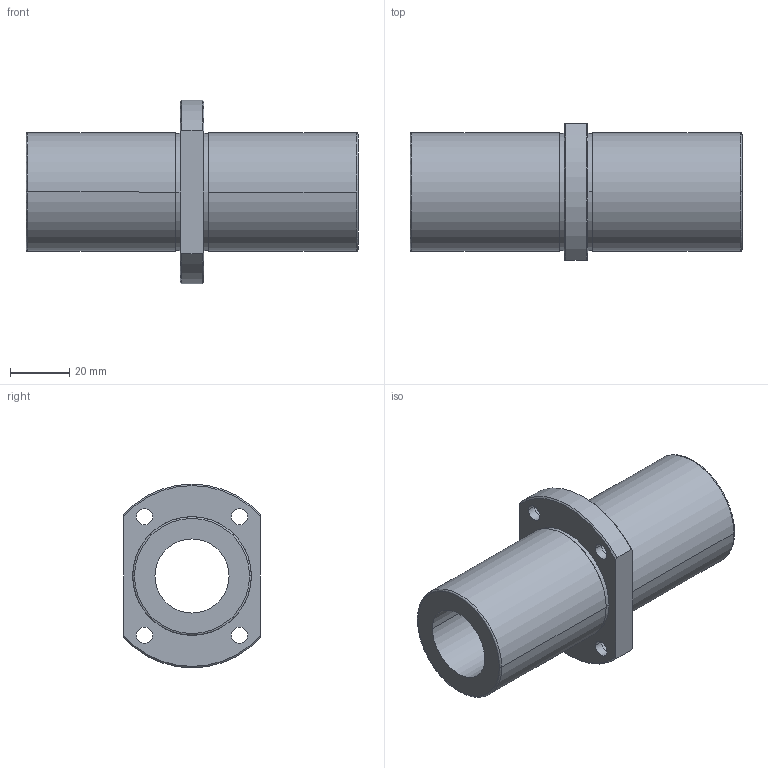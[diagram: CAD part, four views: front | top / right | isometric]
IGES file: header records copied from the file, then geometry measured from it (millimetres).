
Start section: 3D InterOp IGES (Version 21 0 1), Spatial Corp. Copyright (c) 1999-2007.
Global section: file name: NFCO-25VLUU.igs; native system: Spatial Corp.; preprocessor: 3D InterOp GENERIC/IGES 3.0; author: Noname; organization: Noname; date: 20220308.143426; units: millimetre
Bounding box: 112 x 46 x 62 mm (x, y, z)
Surface area: 28083.6 mm2 (no closed solid volume)
Topology: 0 solids, 0 shells, 48 faces, 224 edges, 224 vertices
Faces by surface type: revolution 36, extrusion 12
